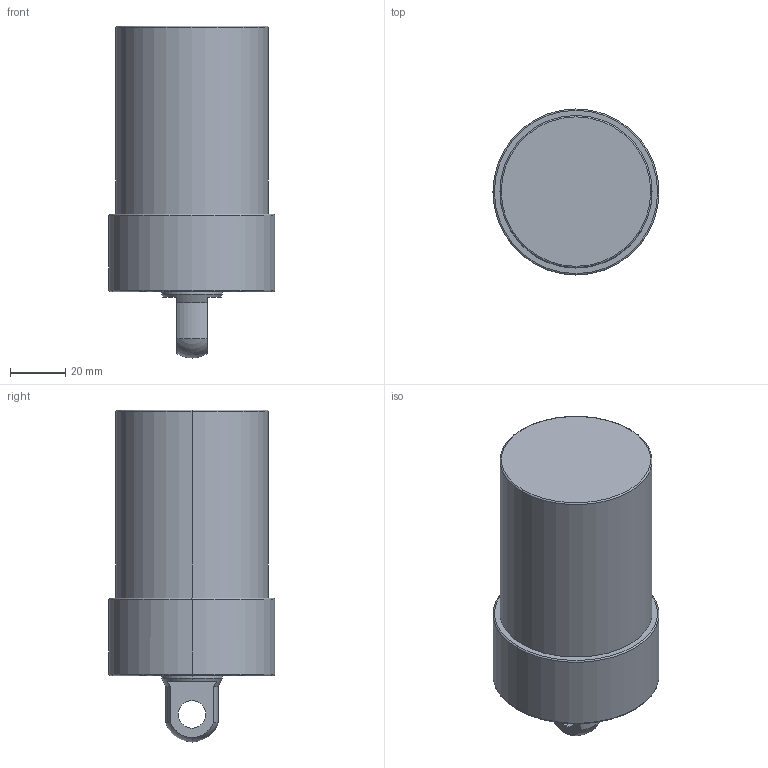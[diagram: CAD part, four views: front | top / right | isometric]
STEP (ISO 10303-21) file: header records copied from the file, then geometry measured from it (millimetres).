
FILE_DESCRIPTION (( 'STEP AP203' ), '1' );
FILE_NAME ('CLLU055-CP-055.STEP', '2017-05-12T10:48:20', ( '' ), ( '' ), 'SwSTEP 2.0', 'SolidWorks 2015', '' );
FILE_SCHEMA (( 'CONFIG_CONTROL_DESIGN' ));
Length unit declared in the file: millimetre
Products named in the file (1): CLLU055-CP-055
Bounding box: 60 x 60 x 120 mm (x, y, z)
Volume: 242953.8 mm3; surface area: 25003.3 mm2
Topology: 1 solids, 1 shells, 57 faces, 130 edges, 75 vertices
Faces by surface type: cylinder 22, cone 18, plane 9, torus 6, sphere 2
Entity records: 1643 total; most frequent: DIRECTION 308, CARTESIAN_POINT 267, ORIENTED_EDGE 244, AXIS2_PLACEMENT_3D 132, EDGE_CURVE 122, VERTEX_POINT 75, CIRCLE 74, EDGE_LOOP 67
